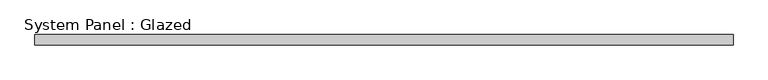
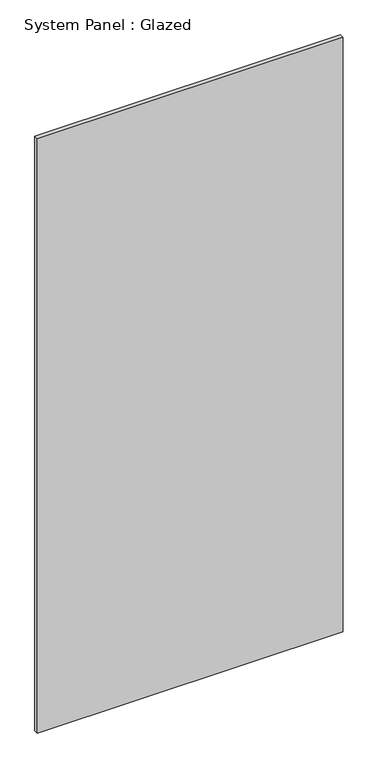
"""IFC4 building model written with IfcOpenShell, lengths in millimetres: plate geometry, System Panel : Glazed."""

import ifcopenshell
import ifcopenshell.guid

model = None  # the IFC model being written
_history = None  # IfcOwnerHistory: only IFC2X3 demands one
_inside = {}  # id of a spatial element -> (the spatial element, [elements in it])
_under = {}  # id of a project, library or spatial element -> (it, [spatial elements below it])
_declared = {}  # id of a project -> (the project, [libraries it declares])
_typed = {}  # id of a type object -> (the type object, [elements of that type])
_made_of = {}  # id of a material, layer set ... -> (it, [elements and type objects made of it])


def new_model(schema):
    """Start an empty IFC model of exactly this schema.

    Asked for "IFC4X3", IfcOpenShell would pick the latest addendum, in which some entities
    have other attributes; the version numbers below select the first issue.
    IFC2X3 requires an IfcOwnerHistory on every rooted entity: one is made here for all.
    """
    global model, _history
    if schema == "IFC4X3":
        model = ifcopenshell.file(schema_version=(4, 3, 0, 0))
    else:
        model = ifcopenshell.file(schema=schema)
    _inside.clear()
    _under.clear()
    _declared.clear()
    _typed.clear()
    _made_of.clear()
    _history = None
    if model.schema == "IFC2X3":
        org = make("IfcOrganization", Name="unknown")
        user = make(
            "IfcPersonAndOrganization",
            ThePerson=make("IfcPerson", FamilyName="unknown"),
            TheOrganization=org,
        )
        app = make(
            "IfcApplication",
            ApplicationDeveloper=org,
            Version="unknown",
            ApplicationFullName="unknown",
            ApplicationIdentifier="unknown",
        )
        _history = make(
            "IfcOwnerHistory",
            OwningUser=user,
            OwningApplication=app,
            ChangeAction="ADDED",
            CreationDate=0,
        )
    return model


def make(cls, **values):
    """One entity of the class cls with the attributes given. An attribute that is None is left unset."""
    return model.create_entity(
        cls, **{name: value for name, value in values.items() if value is not None}
    )


def rooted(cls, **values):
    """An entity with a GlobalId (a new one), such as an element, a storey or a relation."""
    return make(cls, GlobalId=ifcopenshell.guid.new(), OwnerHistory=_history, **values)


def si_unit(unit_type, name, prefix=None):
    """IfcSIUnit, for example si_unit("LENGTHUNIT", "METRE", prefix="MILLI")."""
    return make("IfcSIUnit", UnitType=unit_type, Prefix=prefix, Name=name)


def assignment(units):
    """IfcUnitAssignment: the units of a project."""
    return None if units is None else make("IfcUnitAssignment", Units=units)


def point(xyz):
    """IfcCartesianPoint."""
    return None if xyz is None else make("IfcCartesianPoint", Coordinates=xyz)


def direction(xyz):
    """IfcDirection."""
    return None if xyz is None else make("IfcDirection", DirectionRatios=xyz)


def frame(location, z_axis=None, x_axis=None):
    """IfcAxis2Placement3D, a coordinate frame: its origin and axes. An axis left out is left unset."""
    return make(
        "IfcAxis2Placement3D",
        Location=point(location),
        Axis=direction(z_axis),
        RefDirection=direction(x_axis),
    )


def origin():
    """The frame at (0, 0, 0) with its axes left unset."""
    return frame((0.0, 0.0, 0.0))


def origin_with_axes():
    """The frame at (0, 0, 0) with the z axis (0, 0, 1) and the x axis (1, 0, 0) written out."""
    return frame((0.0, 0.0, 0.0), z_axis=(0.0, 0.0, 1.0), x_axis=(1.0, 0.0, 0.0))


def place(relative_to, where):
    """IfcLocalPlacement: puts the frame where relative to a parent placement (None: the world)."""
    return make(
        "IfcLocalPlacement", PlacementRelTo=relative_to, RelativePlacement=where
    )


def context(
    kind, dimensions, precision=None, world=None, true_north=None, identifier=None
):
    """IfcGeometricRepresentationContext, for example the 3D "Model" context."""
    return make(
        "IfcGeometricRepresentationContext",
        ContextIdentifier=identifier,
        ContextType=kind,
        CoordinateSpaceDimension=dimensions,
        Precision=precision,
        WorldCoordinateSystem=world,
        TrueNorth=true_north,
    )


def project(units=None, contexts=None):
    """IfcProject with its units and contexts."""
    return rooted(
        "IfcProject",
        Name="project",
        RepresentationContexts=contexts,
        UnitsInContext=assignment(units),
    )


def spatial(cls, under=None, at=None, **own):
    """A site, building, storey or space (cls), placed at a placement, below another one or the project."""
    s = rooted(cls, ObjectPlacement=at, **own)
    if under is not None:
        _under.setdefault(under.id(), (under, []))[1].append(s)
    return s


def polyline(points):
    """IfcPolyline through the points."""
    return make("IfcPolyline", Points=[point(p) for p in points])


def outline(outer, holes=None, kind="AREA"):
    """IfcArbitraryClosedProfileDef: a profile drawn as a closed curve; with holes, ...WithVoids."""
    if holes is None:
        return make("IfcArbitraryClosedProfileDef", ProfileType=kind, OuterCurve=outer)
    return make(
        "IfcArbitraryProfileDefWithVoids",
        ProfileType=kind,
        OuterCurve=outer,
        InnerCurves=holes,
    )


def extrude(swept, where, along, depth):
    """IfcExtrudedAreaSolid: the profile swept, set in the frame where, extruded along a direction by depth."""
    return make(
        "IfcExtrudedAreaSolid",
        SweptArea=swept,
        Position=where,
        ExtrudedDirection=direction(along),
        Depth=depth,
    )


def shape(context_of_items, identifier, shape_type, items):
    """IfcShapeRepresentation: the items that make up one representation, for example the "Body"."""
    return make(
        "IfcShapeRepresentation",
        ContextOfItems=context_of_items,
        RepresentationIdentifier=identifier,
        RepresentationType=shape_type,
        Items=items,
    )


def source(mapping_origin, context_of_items, identifier, shape_type, items):
    """IfcRepresentationMap: a shape defined once, which mapped items show again and again."""
    return make(
        "IfcRepresentationMap",
        MappingOrigin=mapping_origin,
        MappedRepresentation=shape(context_of_items, identifier, shape_type, items),
    )


def transform(
    local_origin,
    x_axis=None,
    y_axis=None,
    z_axis=None,
    scale=None,
    scale2=None,
    scale3=None,
    uniform=True,
):
    """IfcCartesianTransformationOperator3D, or its non-uniform kind. x_axis, y_axis, z_axis: its Axis1, 2, 3."""
    if uniform:
        return make(
            "IfcCartesianTransformationOperator3D",
            Axis1=direction(x_axis),
            Axis2=direction(y_axis),
            LocalOrigin=point(local_origin),
            Scale=scale,
            Axis3=direction(z_axis),
        )
    return make(
        "IfcCartesianTransformationOperator3DnonUniform",
        Axis1=direction(x_axis),
        Axis2=direction(y_axis),
        LocalOrigin=point(local_origin),
        Scale=scale,
        Axis3=direction(z_axis),
        Scale2=scale2,
        Scale3=scale3,
    )


def mapped(mapping_source, mapping_target):
    """IfcMappedItem: shows the shape of a source again, moved by a transform."""
    return make(
        "IfcMappedItem", MappingSource=mapping_source, MappingTarget=mapping_target
    )


def made_of(thing, what):
    """Note that an element or type object is made of a material, layer set ...; save() writes the relation."""
    if what is not None:
        _made_of.setdefault(what.id(), (what, []))[1].append(thing)
    return thing


def element(
    cls,
    number,
    at=None,
    inside=None,
    cuts=None,
    type_object=None,
    material=None,
    context=None,
    identifier="Body",
    shape_type=None,
    held_by="IfcProductDefinitionShape",
    body=None,
    shapes=None,
    **own,
):
    """One element of the class cls, such as IfcWall. Its Tag is "e" and its number.

    at: its placement. inside: the storey or other place that contains it. cuts: it is an
    opening in that element (IfcRelVoidsElement). A single representation is given by context,
    identifier, shape_type and body (its items); several are given by shapes. held_by: the class
    of the entity that holds the representations. save() writes the other relations.
    """
    e = rooted(cls, Tag="e%d" % number, ObjectPlacement=at, **own)
    if body is not None:
        shapes = [shape(context, identifier, shape_type, body)]
    if shapes is not None:
        e.Representation = make(held_by, Representations=shapes)
    if inside is not None:
        _inside.setdefault(inside.id(), (inside, []))[1].append(e)
    if cuts is not None:
        rooted(
            "IfcRelVoidsElement", RelatingBuildingElement=cuts, RelatedOpeningElement=e
        )
    if type_object is not None:
        _typed.setdefault(type_object.id(), (type_object, []))[1].append(e)
    return made_of(e, material)


def aggregate(whole, parts):
    """IfcRelAggregates: a whole, such as a stair, and the parts it consists of."""
    return rooted("IfcRelAggregates", RelatingObject=whole, RelatedObjects=parts)


def save(model, path):
    """Write the relations noted so far, then the file.

    IfcRelAggregates (storeys below a building ...), IfcRelContainedInSpatialStructure (elements
    in a storey), IfcRelDefinesByType, IfcRelAssociatesMaterial and IfcRelDeclares: one each for
    every whole, place, type object, material and project.
    """
    for whole, parts in _under.values():
        aggregate(whole, parts)
    for where, things in _inside.values():
        rooted(
            "IfcRelContainedInSpatialStructure",
            RelatedElements=things,
            RelatingStructure=where,
        )
    for kind, things in _typed.values():
        rooted("IfcRelDefinesByType", RelatedObjects=things, RelatingType=kind)
    for what, things in _made_of.values():
        rooted("IfcRelAssociatesMaterial", RelatedObjects=things, RelatingMaterial=what)
    for by, libraries in _declared.values():
        rooted("IfcRelDeclares", RelatingContext=by, RelatedDefinitions=libraries)
    model.write(path)


def system_panel_glazed_6d5b9853(model_context):
    return source(origin(), model_context, "Body", "SweptSolid", [
        extrude(outline(polyline([(866.775, 19.05), (-866.775, 19.05), (-866.775, 44.45), (866.775, 44.45), (866.775, 19.05)])), origin_with_axes(), (0.0, 0.0, 1.0), 3562.35),
    ])


if __name__ == "__main__":
    model = new_model("IFC4")
    model_context = context("Model", 3, world=origin())
    ifc_project = project(units=[si_unit("LENGTHUNIT", "METRE", prefix="MILLI")], contexts=[model_context])
    site = spatial("IfcSite", under=ifc_project)
    building = spatial("IfcBuilding", under=site)
    placement = place(None, origin())
    system_panel_glazed_shape = system_panel_glazed_6d5b9853(model_context)
    element("IfcPlate", 1, ObjectType="System Panel : Glazed", at=placement, inside=building, context=model_context, shape_type="MappedRepresentation", body=[
        mapped(system_panel_glazed_shape, transform((0.0, 0.0, 0.0), x_axis=(1.0, 0.0, 0.0), y_axis=(0.0, 1.0, 0.0), z_axis=(0.0, 0.0, 1.0))),
    ])
    save(model, "model.ifc")
